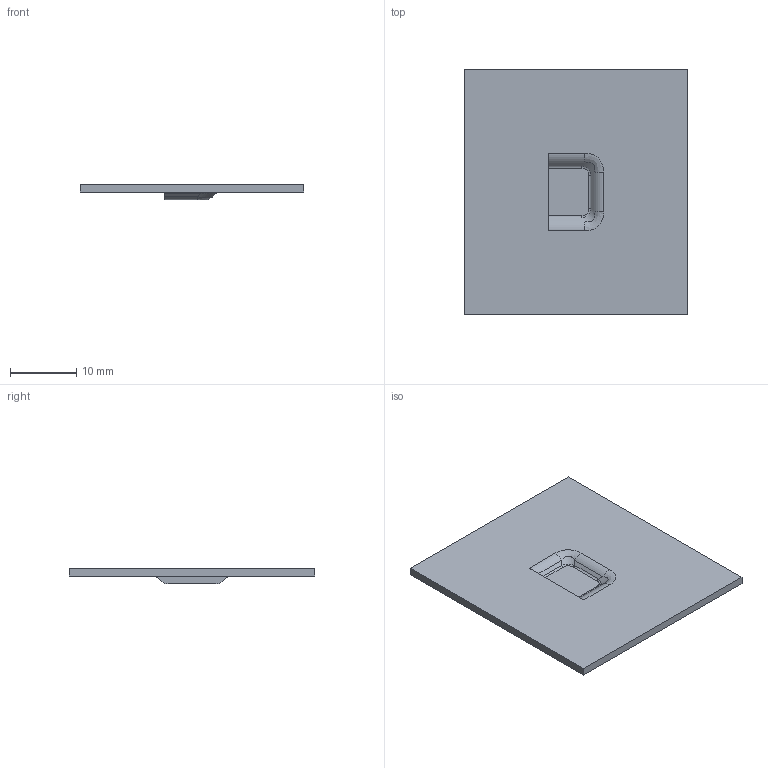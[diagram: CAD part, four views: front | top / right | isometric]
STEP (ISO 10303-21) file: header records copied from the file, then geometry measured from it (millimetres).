
FILE_DESCRIPTION((''),'2;1');
FILE_NAME('C:/Users/ericfrey/Desktop/TEK LANCE.STP', '2023-05-16T20:58:03',(''), (''), 'Kubotek Kosmos Version 5.0.12905.12905', 'KeyCreator Pro', '');
FILE_SCHEMA(('CONFIG_CONTROL_DESIGN'));
Length unit declared in the file: inch
Bounding box: 33.71 x 37.04 x 2.4 mm (x, y, z)
Surface area: 2712.6 mm2 (no closed solid volume)
Topology: 0 solids, 3 shells, 39 faces, 112 edges, 76 vertices
Faces by surface type: cylinder 16, plane 15, bspline 8
Entity records: 1977 total; most frequent: CARTESIAN_POINT 815, DIRECTION 191, ORIENTED_EDGE 188, GENERAL_PROPERTY 154, EDGE_CURVE 112, VERTEX_POINT 76, AXIS2_PLACEMENT_3D 64, VECTOR 63
